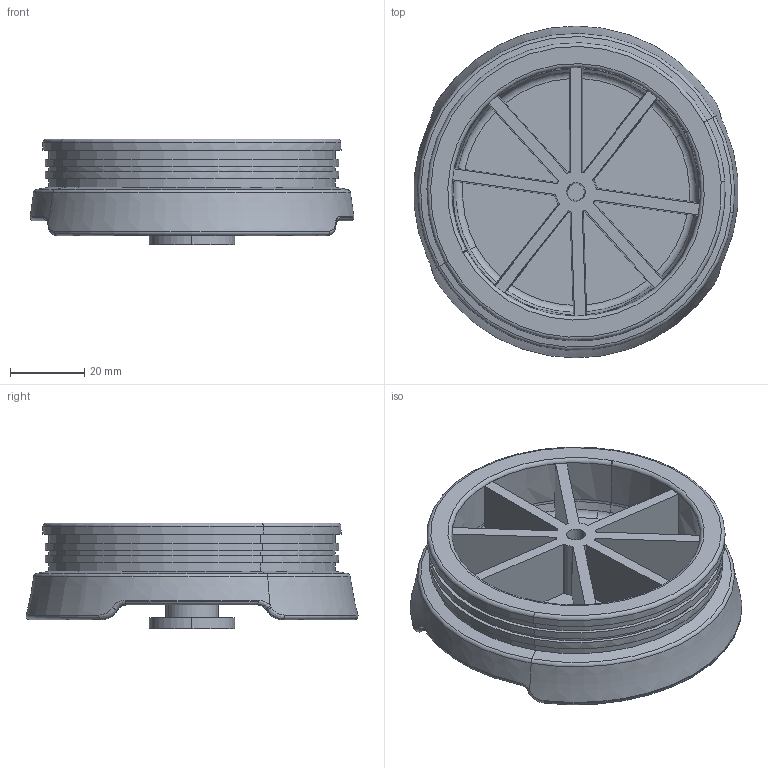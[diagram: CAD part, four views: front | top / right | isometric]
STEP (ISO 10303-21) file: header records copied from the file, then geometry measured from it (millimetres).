
FILE_DESCRIPTION(('CATIA V5 STEP Exchange'),'2;1');
FILE_NAME('C:\Users\Administrator\Desktop\SLT0010279-空气弹簧下端盖.stp','2021-04-28T05:44:50+00:00',('none'),('none'),'CATIA Version 5 Release 20 GA (IN-10)','CATIA V5 STEP AP214','none');
FILE_SCHEMA(('AUTOMOTIVE_DESIGN { 1 0 10303 214 1 1 1 1 }'));
Length unit declared in the file: millimetre
Products named in the file (1): SLT0010279-方案2
Bounding box: 87.1 x 89.27 x 28.5 mm (x, y, z)
Volume: 72125.4 mm3; surface area: 31823.8 mm2
Topology: 1 solids, 1 shells, 189 faces, 487 edges, 311 vertices
Faces by surface type: torus 57, plane 41, bspline 36, cylinder 28, cone 27
Entity records: 7978 total; most frequent: CARTESIAN_POINT 4061, ORIENTED_EDGE 974, DIRECTION 502, EDGE_CURVE 487, AXIS2_PLACEMENT_3D 317, VERTEX_POINT 311, B_SPLINE_CURVE_WITH_KNOTS 207, CIRCLE 205
